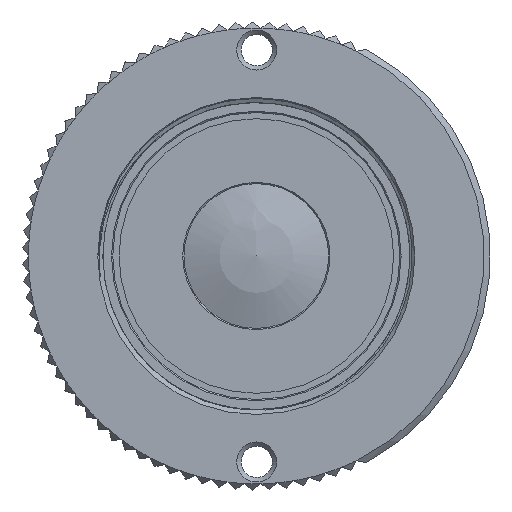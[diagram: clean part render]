
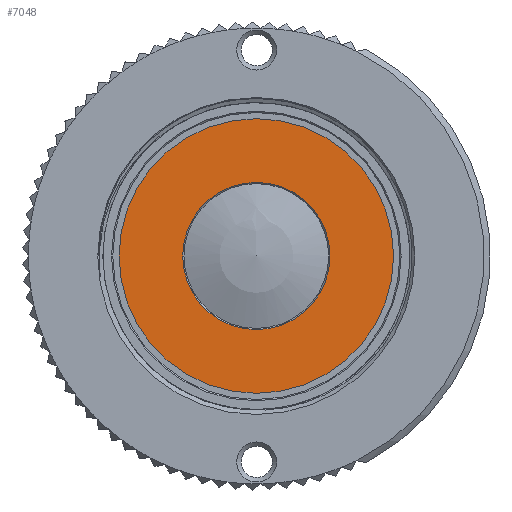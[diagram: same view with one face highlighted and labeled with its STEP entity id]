
A CAD part, left-side view. The second image highlights one B-rep face of the part: STEP entity #7048.
In plain terms, the highlighted planar face has unit normal (-1, 0, 0).
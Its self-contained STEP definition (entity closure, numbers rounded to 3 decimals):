
#151=PLANE('',#7645);
#2259=ORIENTED_EDGE('',*,*,#2951,.F.);
#2260=ORIENTED_EDGE('',*,*,#2948,.F.);
#2948=EDGE_CURVE('',#3343,#3343,#3610,.T.);
#2951=EDGE_CURVE('',#3346,#3346,#3613,.T.);
#3343=VERTEX_POINT('',#12423);
#3346=VERTEX_POINT('',#12433);
#3610=CIRCLE('',#7637,11.);
#3613=CIRCLE('',#7644,5.9);
#3976=EDGE_LOOP('',(#2259));
#3977=EDGE_LOOP('',(#2260));
#4340=FACE_BOUND('',#3976,.T.);
#4341=FACE_BOUND('',#3977,.T.);
#7048=ADVANCED_FACE('',(#4340,#4341),#151,.F.);
#7637=AXIS2_PLACEMENT_3D('',#12422,#8992,#8993);
#7644=AXIS2_PLACEMENT_3D('',#12432,#9006,#9007);
#7645=AXIS2_PLACEMENT_3D('',#12434,#9008,#9009);
#8992=DIRECTION('',(1.,0.,0.));
#8993=DIRECTION('',(0.,0.,-1.));
#9006=DIRECTION('',(-1.,0.,0.));
#9007=DIRECTION('',(0.,0.,1.));
#9008=DIRECTION('',(1.,0.,0.));
#9009=DIRECTION('',(0.,0.,-1.));
#12422=CARTESIAN_POINT('',(-21.425,0.,0.));
#12423=CARTESIAN_POINT('',(-21.425,0.,-11.));
#12432=CARTESIAN_POINT('',(-21.425,0.,0.));
#12433=CARTESIAN_POINT('',(-21.425,0.,5.9));
#12434=CARTESIAN_POINT('',(-21.425,0.,5.9));
